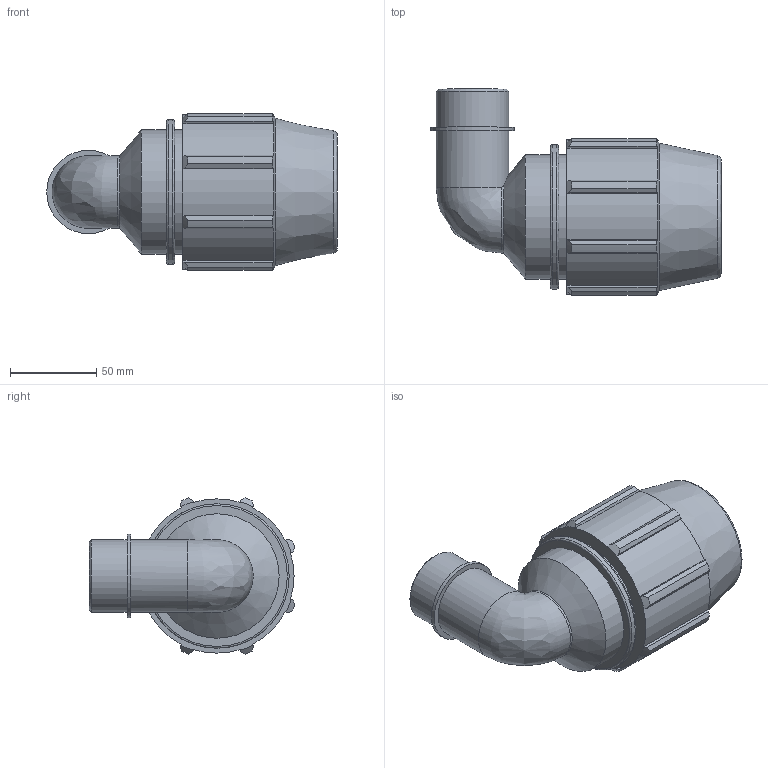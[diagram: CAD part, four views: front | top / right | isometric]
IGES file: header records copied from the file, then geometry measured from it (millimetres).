
Global section: file name: 078500050013_188500050013_0785060500130A.ipt; native system: Autodesk Inventor 2015; preprocessor: unknown; author: KIM; date: 20170606.133126; units: millimetre
Bounding box: 168.1 x 119.16 x 90.33 mm (x, y, z)
Volume: 504860.1 mm3; surface area: 82027.9 mm2
Topology: 1 solids, 1 shells, 86 faces, 237 edges, 158 vertices
Faces by surface type: plane 41, cylinder 23, cone 12, revolution 9, bspline 1
Full cylindrical faces by diameter (mm): 41.91 x2, 48.197 x1, 72 x2, 83.52 x1
